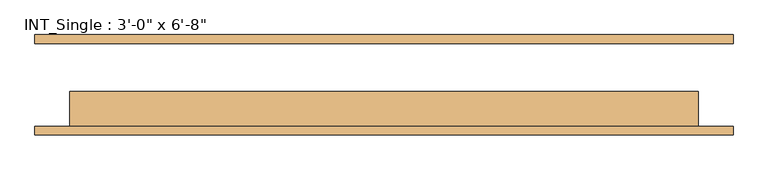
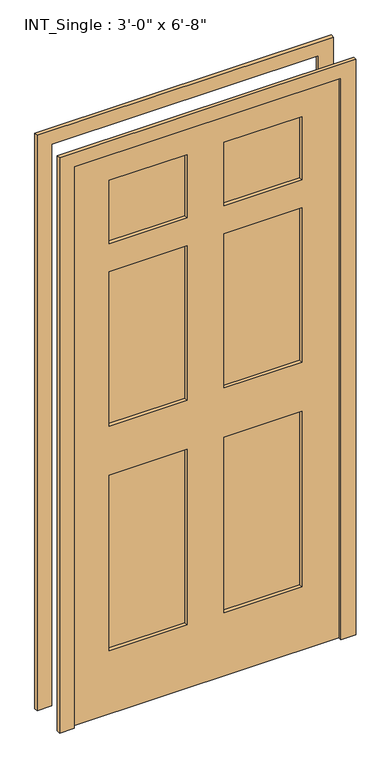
"""IFC4 building model written with IfcOpenShell, lengths in millimetres: door geometry."""

import ifcopenshell
import ifcopenshell.guid

model = None  # the IFC model being written
_history = None  # IfcOwnerHistory: only IFC2X3 demands one
_inside = {}  # id of a spatial element -> (the spatial element, [elements in it])
_under = {}  # id of a project, library or spatial element -> (it, [spatial elements below it])
_declared = {}  # id of a project -> (the project, [libraries it declares])
_typed = {}  # id of a type object -> (the type object, [elements of that type])
_made_of = {}  # id of a material, layer set ... -> (it, [elements and type objects made of it])


def new_model(schema):
    """Start an empty IFC model of exactly this schema.

    Asked for "IFC4X3", IfcOpenShell would pick the latest addendum, in which some entities
    have other attributes; the version numbers below select the first issue.
    IFC2X3 requires an IfcOwnerHistory on every rooted entity: one is made here for all.
    """
    global model, _history
    if schema == "IFC4X3":
        model = ifcopenshell.file(schema_version=(4, 3, 0, 0))
    else:
        model = ifcopenshell.file(schema=schema)
    _inside.clear()
    _under.clear()
    _declared.clear()
    _typed.clear()
    _made_of.clear()
    _history = None
    if model.schema == "IFC2X3":
        org = make("IfcOrganization", Name="unknown")
        user = make(
            "IfcPersonAndOrganization",
            ThePerson=make("IfcPerson", FamilyName="unknown"),
            TheOrganization=org,
        )
        app = make(
            "IfcApplication",
            ApplicationDeveloper=org,
            Version="unknown",
            ApplicationFullName="unknown",
            ApplicationIdentifier="unknown",
        )
        _history = make(
            "IfcOwnerHistory",
            OwningUser=user,
            OwningApplication=app,
            ChangeAction="ADDED",
            CreationDate=0,
        )
    return model


def make(cls, **values):
    """One entity of the class cls with the attributes given. An attribute that is None is left unset."""
    return model.create_entity(
        cls, **{name: value for name, value in values.items() if value is not None}
    )


def rooted(cls, **values):
    """An entity with a GlobalId (a new one), such as an element, a storey or a relation."""
    return make(cls, GlobalId=ifcopenshell.guid.new(), OwnerHistory=_history, **values)


def si_unit(unit_type, name, prefix=None):
    """IfcSIUnit, for example si_unit("LENGTHUNIT", "METRE", prefix="MILLI")."""
    return make("IfcSIUnit", UnitType=unit_type, Prefix=prefix, Name=name)


def assignment(units):
    """IfcUnitAssignment: the units of a project."""
    return None if units is None else make("IfcUnitAssignment", Units=units)


def point(xyz):
    """IfcCartesianPoint."""
    return None if xyz is None else make("IfcCartesianPoint", Coordinates=xyz)


def direction(xyz):
    """IfcDirection."""
    return None if xyz is None else make("IfcDirection", DirectionRatios=xyz)


def frame(location, z_axis=None, x_axis=None):
    """IfcAxis2Placement3D, a coordinate frame: its origin and axes. An axis left out is left unset."""
    return make(
        "IfcAxis2Placement3D",
        Location=point(location),
        Axis=direction(z_axis),
        RefDirection=direction(x_axis),
    )


def origin():
    """The frame at (0, 0, 0) with its axes left unset."""
    return frame((0.0, 0.0, 0.0))


def place(relative_to, where):
    """IfcLocalPlacement: puts the frame where relative to a parent placement (None: the world)."""
    return make(
        "IfcLocalPlacement", PlacementRelTo=relative_to, RelativePlacement=where
    )


def context(
    kind, dimensions, precision=None, world=None, true_north=None, identifier=None
):
    """IfcGeometricRepresentationContext, for example the 3D "Model" context."""
    return make(
        "IfcGeometricRepresentationContext",
        ContextIdentifier=identifier,
        ContextType=kind,
        CoordinateSpaceDimension=dimensions,
        Precision=precision,
        WorldCoordinateSystem=world,
        TrueNorth=true_north,
    )


def project(units=None, contexts=None):
    """IfcProject with its units and contexts."""
    return rooted(
        "IfcProject",
        Name="project",
        RepresentationContexts=contexts,
        UnitsInContext=assignment(units),
    )


def spatial(cls, under=None, at=None, **own):
    """A site, building, storey or space (cls), placed at a placement, below another one or the project."""
    s = rooted(cls, ObjectPlacement=at, **own)
    if under is not None:
        _under.setdefault(under.id(), (under, []))[1].append(s)
    return s


def polyline(points):
    """IfcPolyline through the points."""
    return make("IfcPolyline", Points=[point(p) for p in points])


def outline(outer, holes=None, kind="AREA"):
    """IfcArbitraryClosedProfileDef: a profile drawn as a closed curve; with holes, ...WithVoids."""
    if holes is None:
        return make("IfcArbitraryClosedProfileDef", ProfileType=kind, OuterCurve=outer)
    return make(
        "IfcArbitraryProfileDefWithVoids",
        ProfileType=kind,
        OuterCurve=outer,
        InnerCurves=holes,
    )


def extrude(swept, where, along, depth):
    """IfcExtrudedAreaSolid: the profile swept, set in the frame where, extruded along a direction by depth."""
    return make(
        "IfcExtrudedAreaSolid",
        SweptArea=swept,
        Position=where,
        ExtrudedDirection=direction(along),
        Depth=depth,
    )


def shape(context_of_items, identifier, shape_type, items):
    """IfcShapeRepresentation: the items that make up one representation, for example the "Body"."""
    return make(
        "IfcShapeRepresentation",
        ContextOfItems=context_of_items,
        RepresentationIdentifier=identifier,
        RepresentationType=shape_type,
        Items=items,
    )


def source(mapping_origin, context_of_items, identifier, shape_type, items):
    """IfcRepresentationMap: a shape defined once, which mapped items show again and again."""
    return make(
        "IfcRepresentationMap",
        MappingOrigin=mapping_origin,
        MappedRepresentation=shape(context_of_items, identifier, shape_type, items),
    )


def transform(
    local_origin,
    x_axis=None,
    y_axis=None,
    z_axis=None,
    scale=None,
    scale2=None,
    scale3=None,
    uniform=True,
):
    """IfcCartesianTransformationOperator3D, or its non-uniform kind. x_axis, y_axis, z_axis: its Axis1, 2, 3."""
    if uniform:
        return make(
            "IfcCartesianTransformationOperator3D",
            Axis1=direction(x_axis),
            Axis2=direction(y_axis),
            LocalOrigin=point(local_origin),
            Scale=scale,
            Axis3=direction(z_axis),
        )
    return make(
        "IfcCartesianTransformationOperator3DnonUniform",
        Axis1=direction(x_axis),
        Axis2=direction(y_axis),
        LocalOrigin=point(local_origin),
        Scale=scale,
        Axis3=direction(z_axis),
        Scale2=scale2,
        Scale3=scale3,
    )


def mapped(mapping_source, mapping_target):
    """IfcMappedItem: shows the shape of a source again, moved by a transform."""
    return make(
        "IfcMappedItem", MappingSource=mapping_source, MappingTarget=mapping_target
    )


def made_of(thing, what):
    """Note that an element or type object is made of a material, layer set ...; save() writes the relation."""
    if what is not None:
        _made_of.setdefault(what.id(), (what, []))[1].append(thing)
    return thing


def element(
    cls,
    number,
    at=None,
    inside=None,
    cuts=None,
    type_object=None,
    material=None,
    context=None,
    identifier="Body",
    shape_type=None,
    held_by="IfcProductDefinitionShape",
    body=None,
    shapes=None,
    **own,
):
    """One element of the class cls, such as IfcWall. Its Tag is "e" and its number.

    at: its placement. inside: the storey or other place that contains it. cuts: it is an
    opening in that element (IfcRelVoidsElement). A single representation is given by context,
    identifier, shape_type and body (its items); several are given by shapes. held_by: the class
    of the entity that holds the representations. save() writes the other relations.
    """
    e = rooted(cls, Tag="e%d" % number, ObjectPlacement=at, **own)
    if body is not None:
        shapes = [shape(context, identifier, shape_type, body)]
    if shapes is not None:
        e.Representation = make(held_by, Representations=shapes)
    if inside is not None:
        _inside.setdefault(inside.id(), (inside, []))[1].append(e)
    if cuts is not None:
        rooted(
            "IfcRelVoidsElement", RelatingBuildingElement=cuts, RelatedOpeningElement=e
        )
    if type_object is not None:
        _typed.setdefault(type_object.id(), (type_object, []))[1].append(e)
    return made_of(e, material)


def aggregate(whole, parts):
    """IfcRelAggregates: a whole, such as a stair, and the parts it consists of."""
    return rooted("IfcRelAggregates", RelatingObject=whole, RelatedObjects=parts)


def save(model, path):
    """Write the relations noted so far, then the file.

    IfcRelAggregates (storeys below a building ...), IfcRelContainedInSpatialStructure (elements
    in a storey), IfcRelDefinesByType, IfcRelAssociatesMaterial and IfcRelDeclares: one each for
    every whole, place, type object, material and project.
    """
    for whole, parts in _under.values():
        aggregate(whole, parts)
    for where, things in _inside.values():
        rooted(
            "IfcRelContainedInSpatialStructure",
            RelatedElements=things,
            RelatingStructure=where,
        )
    for kind, things in _typed.values():
        rooted("IfcRelDefinesByType", RelatedObjects=things, RelatingType=kind)
    for what, things in _made_of.values():
        rooted("IfcRelAssociatesMaterial", RelatedObjects=things, RelatingMaterial=what)
    for by, libraries in _declared.values():
        rooted("IfcRelDeclares", RelatingContext=by, RelatedDefinitions=libraries)
    model.write(path)


def door_2427d1e9(model_context):
    return source(origin(), model_context, "Body", "SweptSolid", [
        extrude(outline(polyline([(0.0, -508.0), (0.0, -457.2), (2032.0, -457.2), (2032.0, 457.2), (0.0, 457.2), (0.0, 508.0), (2082.8, 508.0), (2082.8, -508.0), (0.0, -508.0)])), frame((0.0, 60.325, 0.0), z_axis=(0.0, 1.0, 0.0), x_axis=(0.0, 0.0, 1.0)), (0.0, 0.0, 1.0), 12.7),
        extrude(outline(polyline([(0.0, 508.0), (2082.8, 508.0), (2082.8, -508.0), (0.0, -508.0), (0.0, -457.2), (2032.0, -457.2), (2032.0, 457.2), (0.0, 457.2), (0.0, 508.0)])), frame((0.0, -73.025, 0.0), z_axis=(0.0, 1.0, 0.0), x_axis=(0.0, 0.0, 1.0)), (0.0, 0.0, 1.0), 12.7),
        extrude(outline(polyline([(-63.5, -22.225), (-63.5, -47.625), (-330.2, -47.625), (-330.2, -22.225), (-63.5, -22.225)])), frame((0.0, 0.0, 1701.8), z_axis=(0.0, 0.0, 1.0), x_axis=(1.0, 0.0, 0.0)), (0.0, 0.0, 1.0), 228.6),
        extrude(outline(polyline([(330.2, -22.225), (330.2, -47.625), (63.5, -47.625), (63.5, -22.225), (330.2, -22.225)])), frame((0.0, 0.0, 1701.8), z_axis=(0.0, 0.0, 1.0), x_axis=(1.0, 0.0, 0.0)), (0.0, 0.0, 1.0), 228.6),
        extrude(outline(polyline([(-63.5, -22.225), (-63.5, -47.625), (-330.2, -47.625), (-330.2, -22.225), (-63.5, -22.225)])), frame((0.0, 0.0, 1041.4), z_axis=(0.0, 0.0, 1.0), x_axis=(1.0, 0.0, 0.0)), (0.0, 0.0, 1.0), 558.8),
        extrude(outline(polyline([(330.2, -22.225), (330.2, -47.625), (63.5, -47.625), (63.5, -22.225), (330.2, -22.225)])), frame((0.0, 0.0, 1041.4), z_axis=(0.0, 0.0, 1.0), x_axis=(1.0, 0.0, 0.0)), (0.0, 0.0, 1.0), 558.8),
        extrude(outline(polyline([(-63.5, -22.225), (-63.5, -47.625), (-330.2, -47.625), (-330.2, -22.225), (-63.5, -22.225)])), frame((0.0, 0.0, 228.6), z_axis=(0.0, 0.0, 1.0), x_axis=(1.0, 0.0, 0.0)), (0.0, 0.0, 1.0), 635.0),
        extrude(outline(polyline([(330.2, -22.225), (330.2, -47.625), (63.5, -47.625), (63.5, -22.225), (330.2, -22.225)])), frame((0.0, 0.0, 228.6), z_axis=(0.0, 0.0, 1.0), x_axis=(1.0, 0.0, 0.0)), (0.0, 0.0, 1.0), 635.0),
        extrude(outline(polyline([(2032.0, 457.2), (2032.0, -457.2), (0.0, -457.2), (0.0, 457.2), (2032.0, 457.2)]), holes=[polyline([(1930.4, -63.5), (1701.8, -63.5), (1701.8, -330.2), (1930.4, -330.2), (1930.4, -63.5)]), polyline([(1930.4, 330.2), (1701.8, 330.2), (1701.8, 63.5), (1930.4, 63.5), (1930.4, 330.2)]), polyline([(1600.2, -63.5), (1041.4, -63.5), (1041.4, -330.2), (1600.2, -330.2), (1600.2, -63.5)]), polyline([(1600.2, 330.2), (1041.4, 330.2), (1041.4, 63.5), (1600.2, 63.5), (1600.2, 330.2)]), polyline([(863.6, -63.5), (228.6, -63.5), (228.6, -330.2), (863.6, -330.2), (863.6, -63.5)]), polyline([(863.6, 330.2), (228.6, 330.2), (228.6, 63.5), (863.6, 63.5), (863.6, 330.2)])]), frame((0.0, -60.325, 0.0), z_axis=(0.0, 1.0, 0.0), x_axis=(0.0, 0.0, 1.0)), (0.0, 0.0, 1.0), 50.8),
    ])


if __name__ == "__main__":
    model = new_model("IFC4")
    model_context = context("Model", 3, world=origin())
    ifc_project = project(units=[si_unit("LENGTHUNIT", "METRE", prefix="MILLI")], contexts=[model_context])
    site = spatial("IfcSite", under=ifc_project)
    building = spatial("IfcBuilding", under=site)
    placement = place(None, origin())
    door_shape = door_2427d1e9(model_context)
    element("IfcDoor", 1, ObjectType="INT_Single : 3'-0\" x 6'-8\"", at=placement, inside=building, context=model_context, shape_type="MappedRepresentation", body=[
        mapped(door_shape, transform((0.0, 0.0, 0.0), x_axis=(1.0, 0.0, 0.0), y_axis=(0.0, 1.0, 0.0), z_axis=(0.0, 0.0, 1.0))),
    ])
    save(model, "model.ifc")
